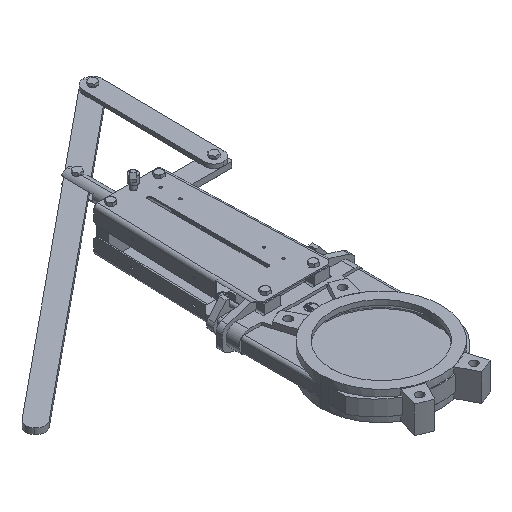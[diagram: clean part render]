
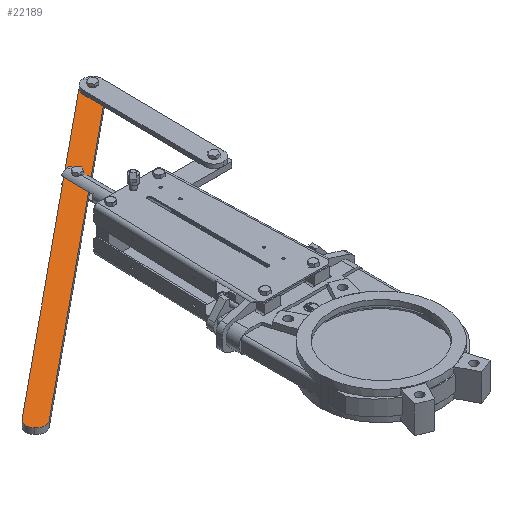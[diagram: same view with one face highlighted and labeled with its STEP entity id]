
A CAD part, isometric view. The second image highlights one B-rep face of the part: STEP entity #22189.
In plain terms, the highlighted planar face has unit normal (0, 0, 1).
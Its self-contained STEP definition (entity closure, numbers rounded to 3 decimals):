
#1104 = EDGE_CURVE ( 'NONE', #21201, #21200, #4249, .T. ) ;
#1216 = EDGE_CURVE ( 'NONE', #21208, #21209, #4645, .T. ) ;
#1843 = EDGE_CURVE ( 'NONE', #3436, #6103, #13322, .T. ) ;
#1845 = EDGE_CURVE ( 'NONE', #21200, #21201, #2260, .T. ) ;
#1846 = EDGE_CURVE ( 'NONE', #6096, #21208, #2261, .T. ) ;
#1847 = EDGE_CURVE ( 'NONE', #21209, #6088, #2263, .T. ) ;
#1848 = EDGE_CURVE ( 'NONE', #6088, #3436, #13343, .T. ) ;
#1849 = EDGE_CURVE ( 'NONE', #6103, #3423, #2267, .T. ) ;
#1850 = EDGE_CURVE ( 'NONE', #3423, #6096, #13348, .T. ) ;
#2256 = VECTOR ( 'NONE', #13336, 1000. ) ;
#2260 = CIRCLE ( 'NONE', #2262, 6.5 ) ;
#2261 = CIRCLE ( 'NONE', #2264, 20. ) ;
#2262 = AXIS2_PLACEMENT_3D ( 'NONE', #13340, #13341, #13342 ) ;
#2263 = CIRCLE ( 'NONE', #2266, 20. ) ;
#2264 = AXIS2_PLACEMENT_3D ( 'NONE', #13345, #13346, #13347 ) ;
#2265 = VECTOR ( 'NONE', #13353, 1000. ) ;
#2266 = AXIS2_PLACEMENT_3D ( 'NONE', #13350, #13351, #13352 ) ;
#2267 = CIRCLE ( 'NONE', #2269, 19.9 ) ;
#2268 = VECTOR ( 'NONE', #13359, 1000. ) ;
#2269 = AXIS2_PLACEMENT_3D ( 'NONE', #13356, #13357, #13358 ) ;
#3423 = VERTEX_POINT ( 'NONE', #13976 ) ;
#3436 = VERTEX_POINT ( 'NONE', #13989 ) ;
#4249 = CIRCLE ( 'NONE', #4295, 6.5 ) ;
#4295 = AXIS2_PLACEMENT_3D ( 'NONE', #10979, #10980, #10981 ) ;
#4539 = AXIS2_PLACEMENT_3D ( 'NONE', #11427, #11428, #11429 ) ;
#4645 = CIRCLE ( 'NONE', #4539, 20. ) ;
#4881 = AXIS2_PLACEMENT_3D ( 'NONE', #25331, #25343, #25344 ) ;
#6088 = VERTEX_POINT ( 'NONE', #14458 ) ;
#6096 = VERTEX_POINT ( 'NONE', #14466 ) ;
#6103 = VERTEX_POINT ( 'NONE', #14473 ) ;
#10979 = CARTESIAN_POINT ( 'NONE',  ( 0., 630.5, 6. ) ) ;
#10980 = DIRECTION ( 'NONE',  ( 0., 0., 1. ) ) ;
#10981 = DIRECTION ( 'NONE',  ( 1., 0., 0. ) ) ;
#11427 = CARTESIAN_POINT ( 'NONE',  ( -478.085, 238.89, 6. ) ) ;
#11428 = DIRECTION ( 'NONE',  ( 0., 0., 1. ) ) ;
#11429 = DIRECTION ( 'NONE',  ( -1., 0., 0. ) ) ;
#13322 = LINE ( 'NONE', #13335, #2256 ) ;
#13335 = CARTESIAN_POINT ( 'NONE',  ( 152.737, 500.267, 6. ) ) ;
#13336 = DIRECTION ( 'NONE',  ( 0.013, 1., 0. ) ) ;
#13340 = CARTESIAN_POINT ( 'NONE',  ( 0., 630.5, 6. ) ) ;
#13341 = DIRECTION ( 'NONE',  ( 0., 0., 1. ) ) ;
#13342 = DIRECTION ( 'NONE',  ( 1., 0., 0. ) ) ;
#13343 = LINE ( 'NONE', #13344, #2265 ) ;
#13344 = CARTESIAN_POINT ( 'NONE',  ( 203.753, 771.545, 6. ) ) ;
#13345 = CARTESIAN_POINT ( 'NONE',  ( -478.085, 238.89, 6. ) ) ;
#13346 = DIRECTION ( 'NONE',  ( 0., 0., 1. ) ) ;
#13347 = DIRECTION ( 'NONE',  ( -1., 0., 0. ) ) ;
#13348 = LINE ( 'NONE', #13349, #2268 ) ;
#13349 = CARTESIAN_POINT ( 'NONE',  ( -506.231, 241.688, 6. ) ) ;
#13350 = CARTESIAN_POINT ( 'NONE',  ( -478.085, 238.89, 6. ) ) ;
#13351 = DIRECTION ( 'NONE',  ( 0., 0., 1. ) ) ;
#13352 = DIRECTION ( 'NONE',  ( -1., 0., 0. ) ) ;
#13353 = DIRECTION ( 'NONE',  ( 0.774, 0.634, 0. ) ) ;
#13356 = CARTESIAN_POINT ( 'NONE',  ( 176.282, 775.079, 6. ) ) ;
#13357 = DIRECTION ( 'NONE',  ( 0., 0., -1. ) ) ;
#13358 = DIRECTION ( 'NONE',  ( -1., 0., 0. ) ) ;
#13359 = DIRECTION ( 'NONE',  ( -0.774, -0.634, 0. ) ) ;
#13976 = CARTESIAN_POINT ( 'NONE',  ( 162.712, 789.634, 6. ) ) ;
#13989 = CARTESIAN_POINT ( 'NONE',  ( 155.813, 732.277, 6. ) ) ;
#14458 = CARTESIAN_POINT ( 'NONE',  ( -465.412, 223.418, 6. ) ) ;
#14466 = CARTESIAN_POINT ( 'NONE',  ( -490.759, 254.362, 6. ) ) ;
#14473 = CARTESIAN_POINT ( 'NONE',  ( 156.384, 775.343, 6. ) ) ;
#21200 = VERTEX_POINT ( 'NONE', #24004 ) ;
#21201 = VERTEX_POINT ( 'NONE', #24006 ) ;
#21208 = VERTEX_POINT ( 'NONE', #24020 ) ;
#21209 = VERTEX_POINT ( 'NONE', #24022 ) ;
#22189 = ADVANCED_FACE ( 'NONE', ( #25340, #25336 ), #25341, .F. ) ;
#22630 = EDGE_LOOP ( 'NONE', ( #28672, #28673, #28674, #28675, #28676, #28677, #28678 ) ) ;
#22691 = EDGE_LOOP ( 'NONE', ( #28670, #28671 ) ) ;
#24004 = CARTESIAN_POINT ( 'NONE',  ( 6.5, 630.5, 6. ) ) ;
#24006 = CARTESIAN_POINT ( 'NONE',  ( -6.5, 630.5, 6. ) ) ;
#24020 = CARTESIAN_POINT ( 'NONE',  ( -498.085, 238.89, 6. ) ) ;
#24022 = CARTESIAN_POINT ( 'NONE',  ( -493.557, 226.216, 6. ) ) ;
#25331 = CARTESIAN_POINT ( 'NONE',  ( -506.231, 241.688, 6. ) ) ;
#25336 = FACE_OUTER_BOUND ( 'NONE', #22630, .T. ) ;
#25340 = FACE_BOUND ( 'NONE', #22691, .T. ) ;
#25341 = PLANE ( 'NONE',  #4881 ) ;
#25343 = DIRECTION ( 'NONE',  ( 0., 0., -1. ) ) ;
#25344 = DIRECTION ( 'NONE',  ( -1., 0., 0. ) ) ;
#28670 = ORIENTED_EDGE ( 'NONE', *, *, #1104, .F. ) ;
#28671 = ORIENTED_EDGE ( 'NONE', *, *, #1845, .F. ) ;
#28672 = ORIENTED_EDGE ( 'NONE', *, *, #1846, .T. ) ;
#28673 = ORIENTED_EDGE ( 'NONE', *, *, #1216, .T. ) ;
#28674 = ORIENTED_EDGE ( 'NONE', *, *, #1847, .T. ) ;
#28675 = ORIENTED_EDGE ( 'NONE', *, *, #1848, .T. ) ;
#28676 = ORIENTED_EDGE ( 'NONE', *, *, #1843, .T. ) ;
#28677 = ORIENTED_EDGE ( 'NONE', *, *, #1849, .T. ) ;
#28678 = ORIENTED_EDGE ( 'NONE', *, *, #1850, .T. ) ;
